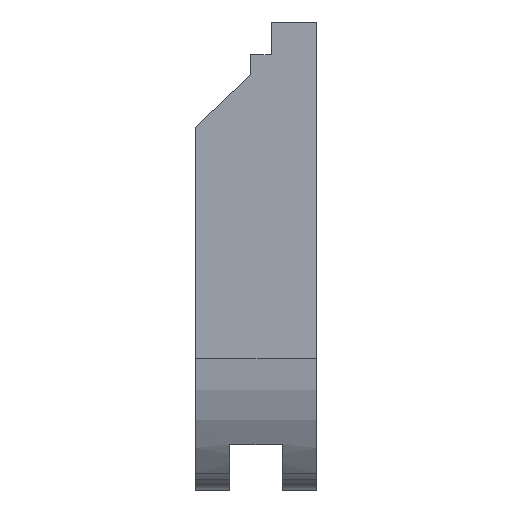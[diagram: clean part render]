
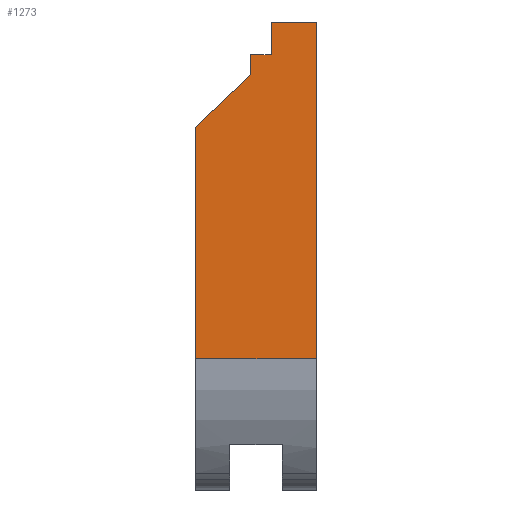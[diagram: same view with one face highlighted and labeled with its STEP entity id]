
A CAD part, top view. The second image highlights one B-rep face of the part: STEP entity #1273.
In plain terms, the highlighted planar face has unit normal (0, 0, 1).
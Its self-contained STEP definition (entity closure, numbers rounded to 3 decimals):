
#58 = LINE ( 'NONE', #1980, #1134 ) ;
#122 = DIRECTION ( 'NONE',  ( -1., 0., 0. ) ) ;
#144 = CARTESIAN_POINT ( 'NONE',  ( -368.8, 164.457, -625.174 ) ) ;
#192 = DIRECTION ( 'NONE',  ( 0., -1., 0. ) ) ;
#227 = LINE ( 'NONE', #975, #730 ) ;
#292 = VECTOR ( 'NONE', #1767, 1000. ) ;
#333 = CARTESIAN_POINT ( 'NONE',  ( -426.3, -91.604, -625.174 ) ) ;
#340 = CARTESIAN_POINT ( 'NONE',  ( -426.3, -91.604, -625.174 ) ) ;
#596 = CARTESIAN_POINT ( 'NONE',  ( -334.3, 164.457, -625.174 ) ) ;
#597 = EDGE_CURVE ( 'NONE', #2898, #3057, #607, .T. ) ;
#607 = LINE ( 'NONE', #1552, #1909 ) ;
#617 = DIRECTION ( 'NONE',  ( 0., 0., 1. ) ) ;
#649 = VERTEX_POINT ( 'NONE', #1665 ) ;
#730 = VECTOR ( 'NONE', #192, 1000. ) ;
#773 = CARTESIAN_POINT ( 'NONE',  ( -384.3, 124.26, -625.174 ) ) ;
#784 = VECTOR ( 'NONE', #3054, 1000. ) ;
#785 = LINE ( 'NONE', #333, #292 ) ;
#829 = CARTESIAN_POINT ( 'NONE',  ( -384.3, 139.457, -625.174 ) ) ;
#861 = LINE ( 'NONE', #2025, #2833 ) ;
#914 = VERTEX_POINT ( 'NONE', #829 ) ;
#944 = EDGE_CURVE ( 'NONE', #1556, #2599, #861, .T. ) ;
#975 = CARTESIAN_POINT ( 'NONE',  ( -426.3, -19.104, -625.174 ) ) ;
#993 = DIRECTION ( 'NONE',  ( 0., -1., 0. ) ) ;
#1000 = CARTESIAN_POINT ( 'NONE',  ( -151.305, -19.104, -625.174 ) ) ;
#1120 = CARTESIAN_POINT ( 'NONE',  ( -426.3, 84.462, -625.174 ) ) ;
#1134 = VECTOR ( 'NONE', #122, 1000. ) ;
#1237 = FACE_OUTER_BOUND ( 'NONE', #2748, .T. ) ;
#1273 = ADVANCED_FACE ( 'NONE', ( #1237 ), #2168, .T. ) ;
#1320 = DIRECTION ( 'NONE',  ( -1., 0., 0. ) ) ;
#1404 = ORIENTED_EDGE ( 'NONE', *, *, #2608, .T. ) ;
#1433 = EDGE_CURVE ( 'NONE', #1556, #2678, #227, .T. ) ;
#1515 = LINE ( 'NONE', #1730, #784 ) ;
#1552 = CARTESIAN_POINT ( 'NONE',  ( -368.8, -19.104, -625.174 ) ) ;
#1556 = VERTEX_POINT ( 'NONE', #1120 ) ;
#1665 = CARTESIAN_POINT ( 'NONE',  ( -334.3, -91.604, -625.174 ) ) ;
#1730 = CARTESIAN_POINT ( 'NONE',  ( -384.3, 138.997, -625.174 ) ) ;
#1762 = VERTEX_POINT ( 'NONE', #596 ) ;
#1767 = DIRECTION ( 'NONE',  ( 1., 0., 0. ) ) ;
#1779 = VECTOR ( 'NONE', #2999, 1000. ) ;
#1804 = LINE ( 'NONE', #2966, #1779 ) ;
#1832 = VECTOR ( 'NONE', #993, 1000. ) ;
#1887 = LINE ( 'NONE', #2844, #1832 ) ;
#1908 = ORIENTED_EDGE ( 'NONE', *, *, #597, .T. ) ;
#1909 = VECTOR ( 'NONE', #2511, 1000. ) ;
#1980 = CARTESIAN_POINT ( 'NONE',  ( -151.305, 164.457, -625.174 ) ) ;
#2025 = CARTESIAN_POINT ( 'NONE',  ( -243.878, 257.32, -625.174 ) ) ;
#2166 = EDGE_CURVE ( 'NONE', #1762, #2898, #58, .T. ) ;
#2168 = PLANE ( 'NONE',  #2566 ) ;
#2171 = EDGE_CURVE ( 'NONE', #914, #3057, #1804, .T. ) ;
#2247 = CARTESIAN_POINT ( 'NONE',  ( -368.8, 139.457, -625.174 ) ) ;
#2291 = ORIENTED_EDGE ( 'NONE', *, *, #944, .F. ) ;
#2348 = ORIENTED_EDGE ( 'NONE', *, *, #2171, .F. ) ;
#2381 = EDGE_CURVE ( 'NONE', #1762, #649, #1887, .T. ) ;
#2400 = ORIENTED_EDGE ( 'NONE', *, *, #2381, .F. ) ;
#2510 = ORIENTED_EDGE ( 'NONE', *, *, #1433, .T. ) ;
#2511 = DIRECTION ( 'NONE',  ( 0., -1., 0. ) ) ;
#2552 = ORIENTED_EDGE ( 'NONE', *, *, #3072, .T. ) ;
#2566 = AXIS2_PLACEMENT_3D ( 'NONE', #1000, #617, #1320 ) ;
#2599 = VERTEX_POINT ( 'NONE', #773 ) ;
#2608 = EDGE_CURVE ( 'NONE', #914, #2599, #1515, .T. ) ;
#2678 = VERTEX_POINT ( 'NONE', #340 ) ;
#2748 = EDGE_LOOP ( 'NONE', ( #2291, #2510, #2552, #2400, #2799, #1908, #2348, #1404 ) ) ;
#2799 = ORIENTED_EDGE ( 'NONE', *, *, #2166, .T. ) ;
#2833 = VECTOR ( 'NONE', #2987, 1000. ) ;
#2844 = CARTESIAN_POINT ( 'NONE',  ( -334.3, -19.104, -625.174 ) ) ;
#2898 = VERTEX_POINT ( 'NONE', #144 ) ;
#2966 = CARTESIAN_POINT ( 'NONE',  ( -473.279, 139.457, -625.174 ) ) ;
#2987 = DIRECTION ( 'NONE',  ( 0.726, 0.688, 0. ) ) ;
#2999 = DIRECTION ( 'NONE',  ( 1., 0., 0. ) ) ;
#3054 = DIRECTION ( 'NONE',  ( 0., -1., 0. ) ) ;
#3057 = VERTEX_POINT ( 'NONE', #2247 ) ;
#3072 = EDGE_CURVE ( 'NONE', #2678, #649, #785, .T. ) ;
